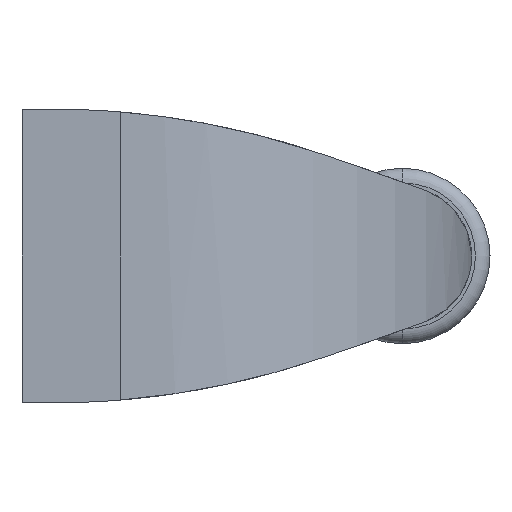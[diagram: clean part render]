
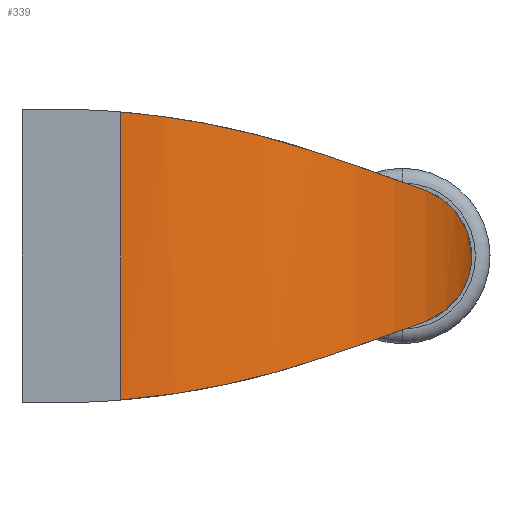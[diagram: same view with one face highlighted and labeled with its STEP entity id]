
A CAD part, left-side view. The second image highlights one B-rep face of the part: STEP entity #339.
In plain terms, the highlighted cylindrical face has radius 24 mm (diameter 48 mm), a partial arc.
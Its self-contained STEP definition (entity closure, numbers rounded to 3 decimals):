
#323 = VERTEX_POINT( '', #879 );
#339 = ADVANCED_FACE( '', ( #896 ), #897, .T. );
#355 = EDGE_CURVE( '', #533, #453, #914, .T. );
#363 = VERTEX_POINT( '', #922 );
#419 = EDGE_CURVE( '', #453, #323, #983, .T. );
#439 = VERTEX_POINT( '', #1007 );
#453 = VERTEX_POINT( '', #1022 );
#461 = EDGE_CURVE( '', #439, #503, #1030, .T. );
#503 = VERTEX_POINT( '', #1077 );
#505 = VERTEX_POINT( '', #1079 );
#533 = VERTEX_POINT( '', #1107 );
#591 = EDGE_CURVE( '', #323, #439, #1171, .T. );
#751 = EDGE_CURVE( '', #505, #363, #1349, .T. );
#753 = EDGE_CURVE( '', #503, #505, #1351, .T. );
#781 = EDGE_CURVE( '', #363, #533, #1383, .T. );
#879 = CARTESIAN_POINT( '', ( -1.083, -19.89, -7.172 ) );
#896 = FACE_OUTER_BOUND( '', #1509, .T. );
#897 = CYLINDRICAL_SURFACE( '', #1510, 24. );
#914 = LINE( '', #1547, #1548 );
#922 = CARTESIAN_POINT( '', ( -1.083, -19.89, 7.172 ) );
#983 = B_SPLINE_CURVE_WITH_KNOTS( '', 3, ( #1663, #1664, #1665, #1666, #1667, #1668, #1669, #1670, #1671, #1672, #1673, #1674 ), .UNSPECIFIED., .F., .F., ( 4, 2, 2, 2, 2, 4 ), ( 88.886, 89.005, 92.243, 95.65, 99.056, 102.353 ), .UNSPECIFIED. );
#1007 = CARTESIAN_POINT( '', ( 7.199, -27.648, -4.455 ) );
#1022 = CARTESIAN_POINT( '', ( -5., -6.75, -9.847 ) );
#1030 = B_SPLINE_CURVE_WITH_KNOTS( '', 3, ( #1742, #1743, #1744, #1745, #1746, #1747, #1748, #1749, #1750, #1751 ), .UNSPECIFIED., .F., .F., ( 4, 2, 2, 2, 4 ), ( 36.304, 37.188, 41.088, 44.988, 48.888 ), .UNSPECIFIED. );
#1077 = CARTESIAN_POINT( '', ( 19., -30.75, 0. ) );
#1079 = CARTESIAN_POINT( '', ( 7.199, -27.648, 4.455 ) );
#1107 = CARTESIAN_POINT( '', ( -5., -6.75, 9.847 ) );
#1171 = B_SPLINE_CURVE_WITH_KNOTS( '', 3, ( #1956, #1957, #1958, #1959, #1960, #1961, #1962, #1963, #1964, #1965, #1966, #1967 ), .UNSPECIFIED., .F., .F., ( 4, 2, 2, 2, 2, 4 ), ( 3.623, 5.631, 8.446, 11.262, 14.077, 14.934 ), .UNSPECIFIED. );
#1349 = B_SPLINE_CURVE_WITH_KNOTS( '', 3, ( #2249, #2250, #2251, #2252, #2253, #2254, #2255, #2256, #2257, #2258, #2259, #2260 ), .UNSPECIFIED., .F., .F., ( 4, 2, 2, 2, 2, 4 ), ( 7.589, 8.446, 11.262, 14.077, 16.893, 18.901 ), .UNSPECIFIED. );
#1351 = B_SPLINE_CURVE_WITH_KNOTS( '', 3, ( #2263, #2264, #2265, #2266, #2267, #2268, #2269, #2270, #2271, #2272 ), .UNSPECIFIED., .F., .F., ( 4, 2, 2, 2, 4 ), ( 0., 3.9, 7.8, 11.7, 12.584 ), .UNSPECIFIED. );
#1383 = B_SPLINE_CURVE_WITH_KNOTS( '', 3, ( #2329, #2330, #2331, #2332, #2333, #2334, #2335, #2336, #2337, #2338, #2339, #2340 ), .UNSPECIFIED., .F., .F., ( 4, 2, 2, 2, 2, 4 ), ( 3.515, 6.812, 10.219, 13.625, 16.863, 16.982 ), .UNSPECIFIED. );
#1509 = EDGE_LOOP( '', ( #2491, #2492, #2493, #2494, #2495, #2496, #2497 ) );
#1510 = AXIS2_PLACEMENT_3D( '', #2498, #2499, #2500 );
#1547 = CARTESIAN_POINT( '', ( -5., -6.75, 10. ) );
#1548 = VECTOR( '', #2516, 1. );
#1663 = CARTESIAN_POINT( '', ( -5., -6.75, -9.847 ) );
#1664 = CARTESIAN_POINT( '', ( -5., -6.792, -9.844 ) );
#1665 = CARTESIAN_POINT( '', ( -5., -6.834, -9.84 ) );
#1666 = CARTESIAN_POINT( '', ( -4.994, -8.015, -9.74 ) );
#1667 = CARTESIAN_POINT( '', ( -4.906, -9.13, -9.61 ) );
#1668 = CARTESIAN_POINT( '', ( -4.592, -11.3, -9.297 ) );
#1669 = CARTESIAN_POINT( '', ( -4.345, -12.441, -9.098 ) );
#1670 = CARTESIAN_POINT( '', ( -3.675, -14.702, -8.63 ) );
#1671 = CARTESIAN_POINT( '', ( -3.251, -15.823, -8.362 ) );
#1672 = CARTESIAN_POINT( '', ( -2.261, -17.944, -7.788 ) );
#1673 = CARTESIAN_POINT( '', ( -1.7, -18.948, -7.484 ) );
#1674 = CARTESIAN_POINT( '', ( -1.083, -19.89, -7.172 ) );
#1742 = CARTESIAN_POINT( '', ( 7.199, -27.648, -4.455 ) );
#1743 = CARTESIAN_POINT( '', ( 7.457, -27.794, -4.401 ) );
#1744 = CARTESIAN_POINT( '', ( 7.718, -27.935, -4.341 ) );
#1745 = CARTESIAN_POINT( '', ( 9.143, -28.671, -3.984 ) );
#1746 = CARTESIAN_POINT( '', ( 10.354, -29.176, -3.584 ) );
#1747 = CARTESIAN_POINT( '', ( 12.823, -29.978, -2.667 ) );
#1748 = CARTESIAN_POINT( '', ( 14.081, -30.274, -2.148 ) );
#1749 = CARTESIAN_POINT( '', ( 16.576, -30.661, -1.079 ) );
#1750 = CARTESIAN_POINT( '', ( 17.812, -30.75, -0.528 ) );
#1751 = CARTESIAN_POINT( '', ( 19., -30.75, 0. ) );
#1956 = CARTESIAN_POINT( '', ( -1.083, -19.89, -7.172 ) );
#1957 = CARTESIAN_POINT( '', ( -0.72, -20.445, -6.989 ) );
#1958 = CARTESIAN_POINT( '', ( -0.331, -20.989, -6.806 ) );
#1959 = CARTESIAN_POINT( '', ( 0.661, -22.26, -6.376 ) );
#1960 = CARTESIAN_POINT( '', ( 1.288, -22.973, -6.13 ) );
#1961 = CARTESIAN_POINT( '', ( 2.628, -24.324, -5.658 ) );
#1962 = CARTESIAN_POINT( '', ( 3.341, -24.963, -5.431 ) );
#1963 = CARTESIAN_POINT( '', ( 4.84, -26.151, -5.004 ) );
#1964 = CARTESIAN_POINT( '', ( 5.627, -26.702, -4.803 ) );
#1965 = CARTESIAN_POINT( '', ( 6.693, -27.357, -4.563 ) );
#1966 = CARTESIAN_POINT( '', ( 6.945, -27.505, -4.508 ) );
#1967 = CARTESIAN_POINT( '', ( 7.199, -27.648, -4.455 ) );
#2249 = CARTESIAN_POINT( '', ( 7.199, -27.648, 4.455 ) );
#2250 = CARTESIAN_POINT( '', ( 6.945, -27.505, 4.508 ) );
#2251 = CARTESIAN_POINT( '', ( 6.693, -27.357, 4.563 ) );
#2252 = CARTESIAN_POINT( '', ( 5.627, -26.702, 4.803 ) );
#2253 = CARTESIAN_POINT( '', ( 4.84, -26.151, 5.004 ) );
#2254 = CARTESIAN_POINT( '', ( 3.341, -24.963, 5.431 ) );
#2255 = CARTESIAN_POINT( '', ( 2.628, -24.324, 5.658 ) );
#2256 = CARTESIAN_POINT( '', ( 1.288, -22.973, 6.13 ) );
#2257 = CARTESIAN_POINT( '', ( 0.661, -22.26, 6.376 ) );
#2258 = CARTESIAN_POINT( '', ( -0.331, -20.989, 6.806 ) );
#2259 = CARTESIAN_POINT( '', ( -0.72, -20.445, 6.989 ) );
#2260 = CARTESIAN_POINT( '', ( -1.083, -19.89, 7.172 ) );
#2263 = CARTESIAN_POINT( '', ( 19., -30.75, 0. ) );
#2264 = CARTESIAN_POINT( '', ( 17.812, -30.75, 0.528 ) );
#2265 = CARTESIAN_POINT( '', ( 16.576, -30.661, 1.079 ) );
#2266 = CARTESIAN_POINT( '', ( 14.081, -30.274, 2.148 ) );
#2267 = CARTESIAN_POINT( '', ( 12.823, -29.978, 2.667 ) );
#2268 = CARTESIAN_POINT( '', ( 10.354, -29.176, 3.584 ) );
#2269 = CARTESIAN_POINT( '', ( 9.143, -28.671, 3.984 ) );
#2270 = CARTESIAN_POINT( '', ( 7.718, -27.935, 4.341 ) );
#2271 = CARTESIAN_POINT( '', ( 7.457, -27.794, 4.401 ) );
#2272 = CARTESIAN_POINT( '', ( 7.199, -27.648, 4.455 ) );
#2329 = CARTESIAN_POINT( '', ( -1.083, -19.89, 7.172 ) );
#2330 = CARTESIAN_POINT( '', ( -1.7, -18.948, 7.484 ) );
#2331 = CARTESIAN_POINT( '', ( -2.261, -17.944, 7.788 ) );
#2332 = CARTESIAN_POINT( '', ( -3.251, -15.823, 8.362 ) );
#2333 = CARTESIAN_POINT( '', ( -3.675, -14.702, 8.63 ) );
#2334 = CARTESIAN_POINT( '', ( -4.345, -12.441, 9.098 ) );
#2335 = CARTESIAN_POINT( '', ( -4.592, -11.3, 9.297 ) );
#2336 = CARTESIAN_POINT( '', ( -4.906, -9.13, 9.61 ) );
#2337 = CARTESIAN_POINT( '', ( -4.994, -8.015, 9.74 ) );
#2338 = CARTESIAN_POINT( '', ( -5., -6.834, 9.84 ) );
#2339 = CARTESIAN_POINT( '', ( -5., -6.792, 9.844 ) );
#2340 = CARTESIAN_POINT( '', ( -5., -6.75, 9.847 ) );
#2491 = ORIENTED_EDGE( '', *, *, #781, .T. );
#2492 = ORIENTED_EDGE( '', *, *, #355, .T. );
#2493 = ORIENTED_EDGE( '', *, *, #419, .T. );
#2494 = ORIENTED_EDGE( '', *, *, #591, .T. );
#2495 = ORIENTED_EDGE( '', *, *, #461, .T. );
#2496 = ORIENTED_EDGE( '', *, *, #753, .T. );
#2497 = ORIENTED_EDGE( '', *, *, #751, .T. );
#2498 = CARTESIAN_POINT( '', ( 19., -6.75, 10. ) );
#2499 = DIRECTION( '', ( 0., 0., 1. ) );
#2500 = DIRECTION( '', ( -1., 0., 0. ) );
#2516 = DIRECTION( '', ( 0., 0., -1. ) );
